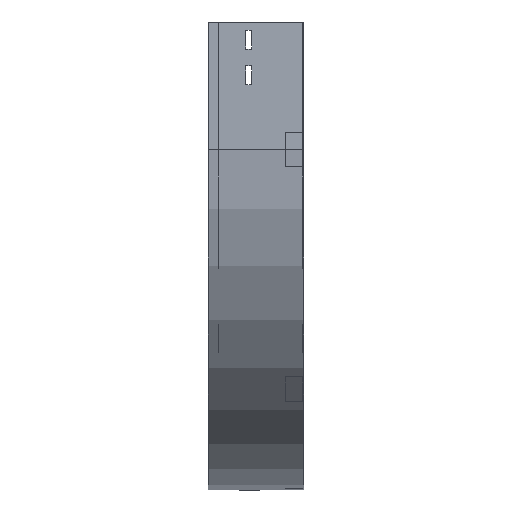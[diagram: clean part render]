
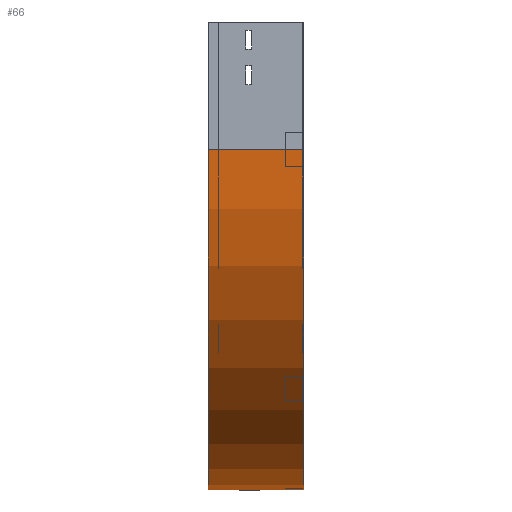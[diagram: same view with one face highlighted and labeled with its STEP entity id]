
A CAD part, left-side view. The second image highlights one B-rep face of the part: STEP entity #66.
In plain terms, the highlighted cylindrical face has radius 400 mm (diameter 800 mm), a partial arc.
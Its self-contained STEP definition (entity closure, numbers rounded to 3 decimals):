
#11 = VERTEX_POINT ( 'NONE', #3723 ) ;
#66 = ADVANCED_FACE ( 'NONE', ( #1999 ), #1367, .T. ) ;
#118 = VERTEX_POINT ( 'NONE', #200 ) ;
#200 = CARTESIAN_POINT ( 'NONE',  ( 0., 0., -150. ) ) ;
#213 = AXIS2_PLACEMENT_3D ( 'NONE', #3279, #3578, #894 ) ;
#346 = LINE ( 'NONE', #2482, #2318 ) ;
#470 = DIRECTION ( 'NONE',  ( 0., 0., -1. ) ) ;
#509 = ORIENTED_EDGE ( 'NONE', *, *, #2780, .F. ) ;
#533 = VERTEX_POINT ( 'NONE', #1931 ) ;
#644 = CIRCLE ( 'NONE', #2006, 400. ) ;
#877 = DIRECTION ( 'NONE',  ( 0., -1., 0. ) ) ;
#894 = DIRECTION ( 'NONE',  ( -1., 0., 0. ) ) ;
#962 = ORIENTED_EDGE ( 'NONE', *, *, #1730, .F. ) ;
#1356 = ORIENTED_EDGE ( 'NONE', *, *, #1987, .T. ) ;
#1367 = CYLINDRICAL_SURFACE ( 'NONE', #3111, 400. ) ;
#1581 = DIRECTION ( 'NONE',  ( -1., 0., 0. ) ) ;
#1717 = CARTESIAN_POINT ( 'NONE',  ( 0., 112.5, -150. ) ) ;
#1730 = EDGE_CURVE ( 'NONE', #118, #11, #644, .T. ) ;
#1931 = CARTESIAN_POINT ( 'NONE',  ( 400., 112.5, -550. ) ) ;
#1987 = EDGE_CURVE ( 'NONE', #3342, #533, #2436, .T. ) ;
#1999 = FACE_OUTER_BOUND ( 'NONE', #3173, .T. ) ;
#2006 = AXIS2_PLACEMENT_3D ( 'NONE', #3359, #3054, #1581 ) ;
#2045 = EDGE_CURVE ( 'NONE', #533, #11, #2364, .T. ) ;
#2166 = DIRECTION ( 'NONE',  ( 0., -1., 0. ) ) ;
#2318 = VECTOR ( 'NONE', #2166, 1000. ) ;
#2364 = LINE ( 'NONE', #3559, #3308 ) ;
#2436 = CIRCLE ( 'NONE', #213, 400. ) ;
#2482 = CARTESIAN_POINT ( 'NONE',  ( 0., 0., -150. ) ) ;
#2622 = DIRECTION ( 'NONE',  ( 0., -1., 0. ) ) ;
#2780 = EDGE_CURVE ( 'NONE', #3342, #118, #346, .T. ) ;
#3054 = DIRECTION ( 'NONE',  ( 0., -1., 0. ) ) ;
#3111 = AXIS2_PLACEMENT_3D ( 'NONE', #3190, #2622, #470 ) ;
#3173 = EDGE_LOOP ( 'NONE', ( #962, #509, #1356, #3356 ) ) ;
#3190 = CARTESIAN_POINT ( 'NONE',  ( 400., 0., -150. ) ) ;
#3279 = CARTESIAN_POINT ( 'NONE',  ( 400., 112.5, -150. ) ) ;
#3308 = VECTOR ( 'NONE', #877, 1000. ) ;
#3342 = VERTEX_POINT ( 'NONE', #1717 ) ;
#3356 = ORIENTED_EDGE ( 'NONE', *, *, #2045, .T. ) ;
#3359 = CARTESIAN_POINT ( 'NONE',  ( 400., 0., -150. ) ) ;
#3559 = CARTESIAN_POINT ( 'NONE',  ( 400., 0., -550. ) ) ;
#3578 = DIRECTION ( 'NONE',  ( 0., -1., 0. ) ) ;
#3723 = CARTESIAN_POINT ( 'NONE',  ( 400., 0., -550. ) ) ;
